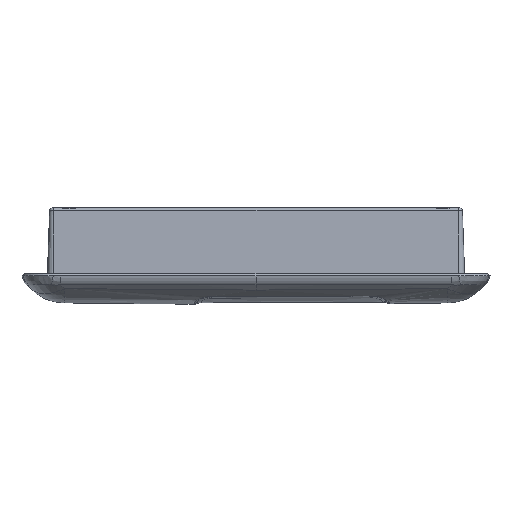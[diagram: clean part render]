
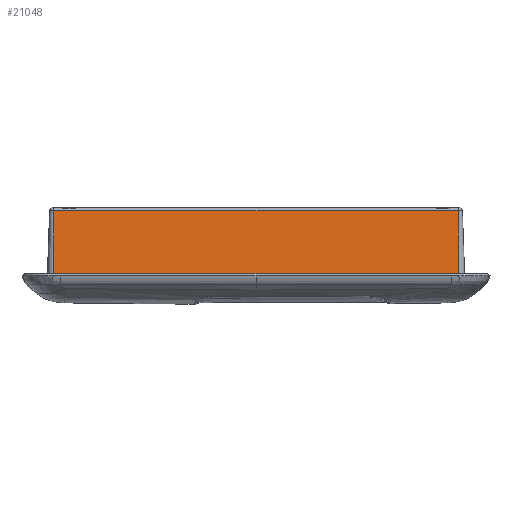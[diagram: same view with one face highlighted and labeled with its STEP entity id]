
A CAD part, top view. The second image highlights one B-rep face of the part: STEP entity #21048.
In plain terms, the highlighted planar face has unit normal (0, 0.035, 0.999).
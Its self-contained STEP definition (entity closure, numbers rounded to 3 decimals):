
#2894 = CARTESIAN_POINT ( 'NONE',  ( -130., -0.71, 23.99 ) ) ;
#5166 = EDGE_CURVE ( 'NONE', #31519, #88879, #45174, .T. ) ;
#5250 = VERTEX_POINT ( 'NONE', #2894 ) ;
#6468 = VECTOR ( 'NONE', #68096, 1000. ) ;
#11100 = VECTOR ( 'NONE', #38958, 1000. ) ;
#11897 = LINE ( 'NONE', #61457, #6468 ) ;
#12672 = DIRECTION ( 'NONE',  ( 0., 0.035, 0.999 ) ) ;
#13076 = ORIENTED_EDGE ( 'NONE', *, *, #18851, .T. ) ;
#14712 = ORIENTED_EDGE ( 'NONE', *, *, #5166, .T. ) ;
#16545 = EDGE_LOOP ( 'NONE', ( #13076, #86210, #82303, #14712 ) ) ;
#18851 = EDGE_CURVE ( 'NONE', #88879, #5250, #86890, .T. ) ;
#21048 = ADVANCED_FACE ( 'NONE', ( #39169 ), #47863, .T. ) ;
#25456 = DIRECTION ( 'NONE',  ( 0., -0.999, 0.035 ) ) ;
#27575 = CARTESIAN_POINT ( 'NONE',  ( 130., -0.71, 23.99 ) ) ;
#31519 = VERTEX_POINT ( 'NONE', #70194 ) ;
#38958 = DIRECTION ( 'NONE',  ( 1., 0., 0. ) ) ;
#38977 = CARTESIAN_POINT ( 'NONE',  ( -130., -1., 24. ) ) ;
#39169 = FACE_OUTER_BOUND ( 'NONE', #16545, .T. ) ;
#40041 = DIRECTION ( 'NONE',  ( 0., -0.999, 0.035 ) ) ;
#44456 = EDGE_CURVE ( 'NONE', #5250, #77225, #61700, .T. ) ;
#45174 = LINE ( 'NONE', #55275, #74277 ) ;
#47095 = EDGE_CURVE ( 'NONE', #31519, #77225, #11897, .T. ) ;
#47863 = PLANE ( 'NONE',  #81563 ) ;
#50474 = DIRECTION ( 'NONE',  ( -1., 0., 0. ) ) ;
#55275 = CARTESIAN_POINT ( 'NONE',  ( -130., 40.07, 22.566 ) ) ;
#59122 = CARTESIAN_POINT ( 'NONE',  ( -130., -0.71, 23.99 ) ) ;
#61457 = CARTESIAN_POINT ( 'NONE',  ( 130., -1., 24. ) ) ;
#61700 = LINE ( 'NONE', #59122, #11100 ) ;
#68096 = DIRECTION ( 'NONE',  ( 0., -0.999, 0.035 ) ) ;
#68924 = CARTESIAN_POINT ( 'NONE',  ( -130., -1., 24. ) ) ;
#70194 = CARTESIAN_POINT ( 'NONE',  ( 130., 40.07, 22.566 ) ) ;
#74277 = VECTOR ( 'NONE', #50474, 1000. ) ;
#76975 = CARTESIAN_POINT ( 'NONE',  ( -130., 40.07, 22.566 ) ) ;
#77225 = VERTEX_POINT ( 'NONE', #27575 ) ;
#80390 = VECTOR ( 'NONE', #25456, 1000. ) ;
#81563 = AXIS2_PLACEMENT_3D ( 'NONE', #68924, #12672, #40041 ) ;
#82303 = ORIENTED_EDGE ( 'NONE', *, *, #47095, .F. ) ;
#86210 = ORIENTED_EDGE ( 'NONE', *, *, #44456, .T. ) ;
#86890 = LINE ( 'NONE', #38977, #80390 ) ;
#88879 = VERTEX_POINT ( 'NONE', #76975 ) ;
